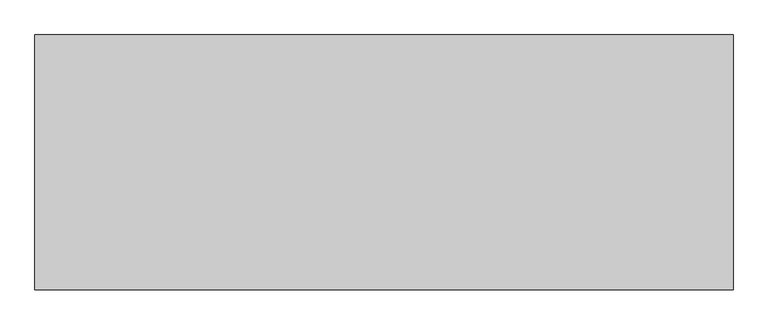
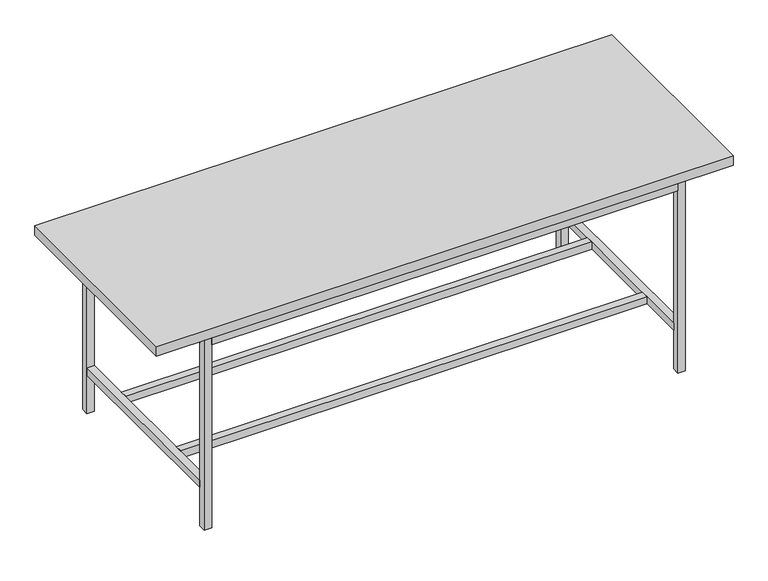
"""IFC4 building model written with IfcOpenShell, lengths in millimetres: furniture geometry, Haworth_Cultivate_Table - SP : 42h 115w 42d - Top Overhang - Both Sides 9 1/2w."""

from ifc_helpers import new_model, si_unit, frame, origin, origin_with_axes, place, context, project, spatial, polyline, outline, extrude, source, transform, mapped, element, save


def furniture_88f81041(model_context):
    return source(origin(), model_context, "Body", "SweptSolid", [
        extrude(outline(polyline([(7493.0, 597.9973297), (7493.0, -468.8026703), (4572.0, -468.8026703), (4572.0, 597.9973297), (7493.0, 597.9973297)])), frame((0.0, 0.0, 1016.0), z_axis=(0.0, 0.0, 1.0), x_axis=(1.0, 0.0, 0.0)), (0.0, 0.0, 1.0), 50.8),
        extrude(outline(polyline([(7213.6, 324.9473297), (7213.6, 286.8473297), (4851.4, 286.8473297), (4851.4, 324.9473297), (7213.6, 324.9473297)])), frame((0.0, 0.0, 206.375), z_axis=(0.0, 0.0, 1.0), x_axis=(1.0, 0.0, 0.0)), (0.0, 0.0, 1.0), 38.1),
        extrude(outline(polyline([(7213.6, -157.6527578), (7213.6, -195.7527578), (4851.4, -195.7527578), (4851.4, -157.6527578), (7213.6, -157.6527578)])), frame((0.0, 0.0, 206.375), z_axis=(0.0, 0.0, 1.0), x_axis=(1.0, 0.0, 0.0)), (0.0, 0.0, 1.0), 38.1),
        extrude(outline(polyline([(7213.6, 559.8973297), (4851.4, 559.8973297), (4851.4, 597.9973297), (7213.6, 597.9973297), (7213.6, 559.8973297)])), frame((0.0, 0.0, 977.9), z_axis=(0.0, 0.0, 1.0), x_axis=(1.0, 0.0, 0.0)), (0.0, 0.0, 1.0), 38.1),
        extrude(outline(polyline([(4851.4, -468.8026703), (4851.4, -430.7027578), (7213.6, -430.7027578), (7213.6, -468.8026703), (4851.4, -468.8026703)])), frame((0.0, 0.0, 977.9), z_axis=(0.0, 0.0, 1.0), x_axis=(1.0, 0.0, 0.0)), (0.0, 0.0, 1.0), 38.1),
        extrude(outline(polyline([(7213.6, -430.7027578), (7213.6, 559.8973297), (7251.7, 559.8973297), (7251.7, -430.7027578), (7213.6, -430.7027578)])), frame((0.0, 0.0, 977.9), z_axis=(0.0, 0.0, 1.0), x_axis=(1.0, 0.0, 0.0)), (0.0, 0.0, 1.0), 38.1),
        extrude(outline(polyline([(7213.6, -430.7027578), (7213.6, 559.8973297), (7251.7, 559.8973297), (7251.7, -430.7027578), (7213.6, -430.7027578)])), frame((0.0, 0.0, 206.375), z_axis=(0.0, 0.0, 1.0), x_axis=(1.0, 0.0, 0.0)), (0.0, 0.0, 1.0), 38.1),
        extrude(outline(polyline([(4813.3, -430.7027578), (4813.3, 559.8973297), (4851.4, 559.8973297), (4851.4, -430.7027578), (4813.3, -430.7027578)])), frame((0.0, 0.0, 206.375), z_axis=(0.0, 0.0, 1.0), x_axis=(1.0, 0.0, 0.0)), (0.0, 0.0, 1.0), 38.1),
        extrude(outline(polyline([(4813.3, -430.7027578), (4813.3, 559.8973297), (4851.4, 559.8973297), (4851.4, -430.7027578), (4813.3, -430.7027578)])), frame((0.0, 0.0, 977.9), z_axis=(0.0, 0.0, 1.0), x_axis=(1.0, 0.0, 0.0)), (0.0, 0.0, 1.0), 38.1),
        extrude(outline(polyline([(7251.7, 597.9973297), (7251.7, 559.8973297), (7213.6, 559.8973297), (7213.6, 597.9973297), (7251.7, 597.9973297)])), origin_with_axes(), (0.0, 0.0, 1.0), 1016.0),
        extrude(outline(polyline([(7251.7, -430.7027578), (7251.7, -468.8026703), (7213.6, -468.8026703), (7213.6, -430.7027578), (7251.7, -430.7027578)])), origin_with_axes(), (0.0, 0.0, 1.0), 1016.0),
        extrude(outline(polyline([(4851.4, -430.7027578), (4851.4, -468.8026703), (4813.3, -468.8026703), (4813.3, -430.7027578), (4851.4, -430.7027578)])), origin_with_axes(), (0.0, 0.0, 1.0), 1016.0),
        extrude(outline(polyline([(4851.4, 597.9973297), (4851.4, 559.8973297), (4813.3, 559.8973297), (4813.3, 597.9973297), (4851.4, 597.9973297)])), origin_with_axes(), (0.0, 0.0, 1.0), 1016.0),
    ])


if __name__ == "__main__":
    model = new_model("IFC4")
    model_context = context("Model", 3, world=origin())
    ifc_project = project(units=[si_unit("LENGTHUNIT", "METRE", prefix="MILLI")], contexts=[model_context])
    site = spatial("IfcSite", under=ifc_project)
    building = spatial("IfcBuilding", under=site)
    placement = place(None, origin())
    furniture_shape = furniture_88f81041(model_context)
    element("IfcFurniture", 1, ObjectType="Haworth_Cultivate_Table - SP : 42h 115w 42d - Top Overhang - Both Sides 9 1/2w", at=placement, inside=building, context=model_context, shape_type="MappedRepresentation", body=[
        mapped(furniture_shape, transform((0.0, 0.0, 0.0), x_axis=(1.0, 0.0, 0.0), y_axis=(0.0, 1.0, 0.0), z_axis=(0.0, 0.0, 1.0))),
    ])
    save(model, "model.ifc")
